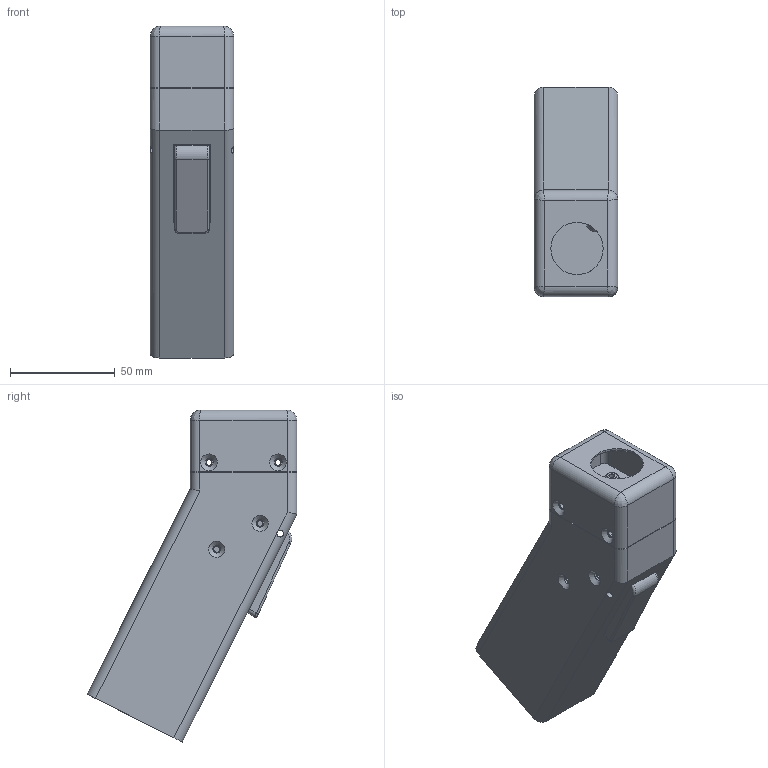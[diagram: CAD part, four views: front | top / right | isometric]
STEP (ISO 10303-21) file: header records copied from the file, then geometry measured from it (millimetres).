
FILE_DESCRIPTION(/* description */ (''),/* implementation_level */ '2;1');
FILE_NAME(/* name */ '2e482127-35bc-4956-af14-e6d4e23342ae.stp',/* time_stamp */ '2022-12-14T21:40:10Z',/* author */ (''),/* organization */ (''),/* preprocessor_version */ 'ST-DEVELOPER v19.2',/* originating_system */ 'Autodesk Translation Framework v11.17.0.187',/* authorisation */ '');
FILE_SCHEMA (('AUTOMOTIVE_DESIGN { 1 0 10303 214 3 1 1 }'));
Length unit declared in the file: millimetre
Products named in the file (2): joystick; lever
Assembly tree (1 placements, depth 2):
  joystick
    lever
Bounding box: 40 x 100.35 x 158.72 mm (x, y, z)
Volume: 132970.6 mm3; surface area: 73158.6 mm2
Topology: 6 solids, 6 shells, 206 faces, 537 edges, 334 vertices
Faces by surface type: plane 93, cylinder 82, cone 15, bspline 10, torus 6
Full cylindrical faces by diameter (mm): 2.8 x9, 3.2 x3, 3.8 x2, 6.6 x4, 25 x1
Entity records: 6953 total; most frequent: CARTESIAN_POINT 1735, DIRECTION 1089, ORIENTED_EDGE 1058, EDGE_CURVE 529, AXIS2_PLACEMENT_3D 385, VERTEX_POINT 334, LINE 319, VECTOR 319
